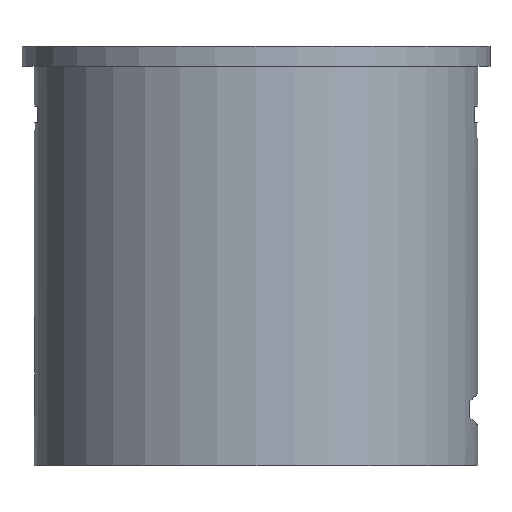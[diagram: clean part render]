
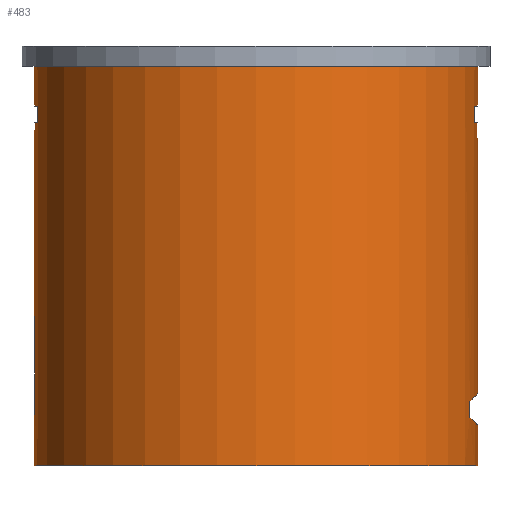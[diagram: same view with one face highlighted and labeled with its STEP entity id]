
A CAD part, left-side view. The second image highlights one B-rep face of the part: STEP entity #483.
In plain terms, the highlighted cylindrical face has radius 27.5 mm (diameter 55 mm), a full revolution.
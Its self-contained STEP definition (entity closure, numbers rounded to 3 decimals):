
#105=CYLINDRICAL_SURFACE('',#528,27.5);
#108=CIRCLE('',#494,27.5);
#110=CIRCLE('',#497,27.5);
#112=CIRCLE('',#502,27.5);
#114=CIRCLE('',#505,27.5);
#116=CIRCLE('',#523,27.5);
#119=CIRCLE('',#529,27.5);
#123=VECTOR('',#542,1.);
#124=VECTOR('',#543,1.);
#127=VECTOR('',#547,1.);
#132=VECTOR('',#563,1.);
#135=VECTOR('',#567,1.);
#140=VECTOR('',#583,1.);
#144=VECTOR('',#598,1.);
#150=VECTOR('',#615,1.);
#153=LINE('',#648,#123);
#154=LINE('',#649,#124);
#157=LINE('',#656,#127);
#162=LINE('',#673,#132);
#165=LINE('',#680,#135);
#170=LINE('',#697,#140);
#174=LINE('',#714,#144);
#180=LINE('',#733,#150);
#181=VERTEX_POINT('',#639);
#182=VERTEX_POINT('',#640);
#183=VERTEX_POINT('',#644);
#184=VERTEX_POINT('',#645);
#187=VERTEX_POINT('',#655);
#188=VERTEX_POINT('',#657);
#190=VERTEX_POINT('',#663);
#192=VERTEX_POINT('',#669);
#195=VERTEX_POINT('',#679);
#196=VERTEX_POINT('',#681);
#198=VERTEX_POINT('',#687);
#200=VERTEX_POINT('',#693);
#201=VERTEX_POINT('',#700);
#202=VERTEX_POINT('',#701);
#205=VERTEX_POINT('',#709);
#207=VERTEX_POINT('',#715);
#209=VERTEX_POINT('',#721);
#211=VERTEX_POINT('',#727);
#214=VERTEX_POINT('',#738);
#217=VERTEX_POINT('',#747);
#219=ELLIPSE('',#487,38.891,27.5);
#220=ELLIPSE('',#489,38.891,27.5);
#221=ELLIPSE('',#508,38.891,27.5);
#223=ELLIPSE('',#511,38.891,27.5);
#225=ELLIPSE('',#515,38.891,27.5);
#227=ELLIPSE('',#518,38.891,27.5);
#229=EDGE_CURVE('',#181,#182,#219,.T.);
#231=EDGE_CURVE('',#183,#184,#220,.T.);
#233=EDGE_CURVE('',#183,#182,#153,.T.);
#234=EDGE_CURVE('',#181,#184,#154,.T.);
#237=EDGE_CURVE('',#188,#187,#157,.T.);
#241=EDGE_CURVE('',#187,#190,#108,.T.);
#243=EDGE_CURVE('',#192,#188,#110,.T.);
#246=EDGE_CURVE('',#190,#192,#162,.T.);
#249=EDGE_CURVE('',#196,#195,#165,.T.);
#253=EDGE_CURVE('',#195,#198,#112,.T.);
#255=EDGE_CURVE('',#200,#196,#114,.T.);
#258=EDGE_CURVE('',#198,#200,#170,.T.);
#259=EDGE_CURVE('',#201,#202,#221,.T.);
#263=EDGE_CURVE('',#202,#205,#223,.T.);
#266=EDGE_CURVE('',#207,#205,#174,.T.);
#269=EDGE_CURVE('',#207,#209,#225,.T.);
#272=EDGE_CURVE('',#209,#211,#227,.T.);
#276=EDGE_CURVE('',#201,#211,#180,.T.);
#278=EDGE_CURVE('',#214,#214,#116,.T.);
#281=EDGE_CURVE('',#217,#217,#119,.T.);
#353=ORIENTED_EDGE('',*,*,#233,.T.);
#354=ORIENTED_EDGE('',*,*,#229,.F.);
#355=ORIENTED_EDGE('',*,*,#234,.T.);
#356=ORIENTED_EDGE('',*,*,#231,.F.);
#357=ORIENTED_EDGE('',*,*,#241,.T.);
#358=ORIENTED_EDGE('',*,*,#246,.T.);
#359=ORIENTED_EDGE('',*,*,#243,.T.);
#360=ORIENTED_EDGE('',*,*,#237,.T.);
#361=ORIENTED_EDGE('',*,*,#253,.T.);
#362=ORIENTED_EDGE('',*,*,#258,.T.);
#363=ORIENTED_EDGE('',*,*,#255,.T.);
#364=ORIENTED_EDGE('',*,*,#249,.T.);
#365=ORIENTED_EDGE('',*,*,#272,.F.);
#366=ORIENTED_EDGE('',*,*,#269,.F.);
#367=ORIENTED_EDGE('',*,*,#266,.T.);
#368=ORIENTED_EDGE('',*,*,#263,.F.);
#369=ORIENTED_EDGE('',*,*,#259,.F.);
#370=ORIENTED_EDGE('',*,*,#276,.T.);
#371=ORIENTED_EDGE('',*,*,#278,.T.);
#372=ORIENTED_EDGE('',*,*,#281,.T.);
#414=EDGE_LOOP('',(#353,#354,#355,#356));
#415=EDGE_LOOP('',(#357,#358,#359,#360));
#416=EDGE_LOOP('',(#361,#362,#363,#364));
#417=EDGE_LOOP('',(#365,#366,#367,#368,#369,#370));
#418=EDGE_LOOP('',(#371));
#419=EDGE_LOOP('',(#372));
#450=FACE_BOUND('',#414,.T.);
#451=FACE_BOUND('',#415,.T.);
#452=FACE_BOUND('',#416,.T.);
#453=FACE_BOUND('',#417,.T.);
#454=FACE_BOUND('',#418,.T.);
#455=FACE_BOUND('',#419,.T.);
#483=ADVANCED_FACE('',(#450,#451,#452,#453,#454,#455),#105,.T.);
#487=AXIS2_PLACEMENT_3D('',#638,#534,#535);
#489=AXIS2_PLACEMENT_3D('',#643,#538,#539);
#494=AXIS2_PLACEMENT_3D('',#664,#553,#554);
#497=AXIS2_PLACEMENT_3D('',#668,#558,#559);
#502=AXIS2_PLACEMENT_3D('',#688,#573,#574);
#505=AXIS2_PLACEMENT_3D('',#692,#578,#579);
#508=AXIS2_PLACEMENT_3D('',#699,#585,#586);
#511=AXIS2_PLACEMENT_3D('',#708,#592,#593);
#515=AXIS2_PLACEMENT_3D('',#720,#602,#603);
#518=AXIS2_PLACEMENT_3D('',#726,#608,#609);
#523=AXIS2_PLACEMENT_3D('',#737,#619,#620);
#528=AXIS2_PLACEMENT_3D('',#745,#628,#629);
#529=AXIS2_PLACEMENT_3D('',#746,#630,#631);
#534=DIRECTION('',(0.,-0.707,-0.707));
#535=DIRECTION('',(0.,27.5,-27.5));
#538=DIRECTION('',(0.,-0.707,0.707));
#539=DIRECTION('',(0.,27.5,27.5));
#542=DIRECTION('',(0.,0.,1.));
#543=DIRECTION('',(0.,0.,-1.));
#547=DIRECTION('',(0.,0.,1.));
#553=DIRECTION('',(0.,0.,1.));
#554=DIRECTION('',(27.5,0.,0.));
#558=DIRECTION('',(0.,0.,-1.));
#559=DIRECTION('',(27.5,0.,0.));
#563=DIRECTION('',(0.,0.,-1.));
#567=DIRECTION('',(0.,0.,-1.));
#573=DIRECTION('',(0.,0.,-1.));
#574=DIRECTION('',(27.5,0.,0.));
#578=DIRECTION('',(0.,0.,1.));
#579=DIRECTION('',(27.5,0.,0.));
#583=DIRECTION('',(0.,0.,1.));
#585=DIRECTION('',(0.707,0.,-0.707));
#586=DIRECTION('',(27.5,0.,27.5));
#592=DIRECTION('',(-0.707,0.,-0.707));
#593=DIRECTION('',(27.5,0.,-27.5));
#598=DIRECTION('',(0.,0.,1.));
#602=DIRECTION('',(-0.707,0.,0.707));
#603=DIRECTION('',(27.5,0.,27.5));
#608=DIRECTION('',(0.707,0.,0.707));
#609=DIRECTION('',(27.5,0.,-27.5));
#615=DIRECTION('',(0.,0.,-1.));
#619=DIRECTION('',(0.,0.,-1.));
#620=DIRECTION('',(27.5,0.,0.));
#628=DIRECTION('',(0.,0.,1.));
#629=DIRECTION('',(27.5,0.,0.));
#630=DIRECTION('',(0.,0.,1.));
#631=DIRECTION('',(27.5,0.,0.));
#638=CARTESIAN_POINT('',(0.,0.,-43.25));
#639=CARTESIAN_POINT('',(7.348,-26.5,-16.75));
#640=CARTESIAN_POINT('',(-7.348,-26.5,-16.75));
#643=CARTESIAN_POINT('',(0.,0.,7.75));
#644=CARTESIAN_POINT('',(-7.348,-26.5,-18.75));
#645=CARTESIAN_POINT('',(7.348,-26.5,-18.75));
#648=CARTESIAN_POINT('',(-7.348,-26.5,-17.75));
#649=CARTESIAN_POINT('',(7.348,-26.5,-17.75));
#655=CARTESIAN_POINT('',(-5.,-27.042,19.75));
#656=CARTESIAN_POINT('',(-5.,-27.042,18.75));
#657=CARTESIAN_POINT('',(-5.,-27.042,17.75));
#663=CARTESIAN_POINT('',(5.,-27.042,19.75));
#664=CARTESIAN_POINT('',(0.,0.,19.75));
#668=CARTESIAN_POINT('',(0.,0.,17.75));
#669=CARTESIAN_POINT('',(5.,-27.042,17.75));
#673=CARTESIAN_POINT('',(5.,-27.042,18.75));
#679=CARTESIAN_POINT('',(-5.,27.042,17.75));
#680=CARTESIAN_POINT('',(-5.,27.042,18.75));
#681=CARTESIAN_POINT('',(-5.,27.042,19.75));
#687=CARTESIAN_POINT('',(5.,27.042,17.75));
#688=CARTESIAN_POINT('',(0.,0.,17.75));
#692=CARTESIAN_POINT('',(0.,0.,19.75));
#693=CARTESIAN_POINT('',(5.,27.042,19.75));
#697=CARTESIAN_POINT('',(5.,27.042,18.75));
#699=CARTESIAN_POINT('',(0.,0.,-4.75));
#700=CARTESIAN_POINT('',(-2.,27.427,-6.75));
#701=CARTESIAN_POINT('',(0.,27.5,-4.75));
#708=CARTESIAN_POINT('',(0.,0.,-4.75));
#709=CARTESIAN_POINT('',(2.,27.427,-6.75));
#714=CARTESIAN_POINT('',(2.,27.427,-12.25));
#715=CARTESIAN_POINT('',(2.,27.427,-17.75));
#720=CARTESIAN_POINT('',(0.,0.,-19.75));
#721=CARTESIAN_POINT('',(0.,27.5,-19.75));
#726=CARTESIAN_POINT('',(0.,0.,-19.75));
#727=CARTESIAN_POINT('',(-2.,27.427,-17.75));
#733=CARTESIAN_POINT('',(-2.,27.427,-12.25));
#737=CARTESIAN_POINT('',(0.,0.,24.75));
#738=CARTESIAN_POINT('',(27.5,0.,24.75));
#745=CARTESIAN_POINT('',(0.,0.,-24.75));
#746=CARTESIAN_POINT('',(0.,0.,-24.75));
#747=CARTESIAN_POINT('',(27.5,0.,-24.75));
